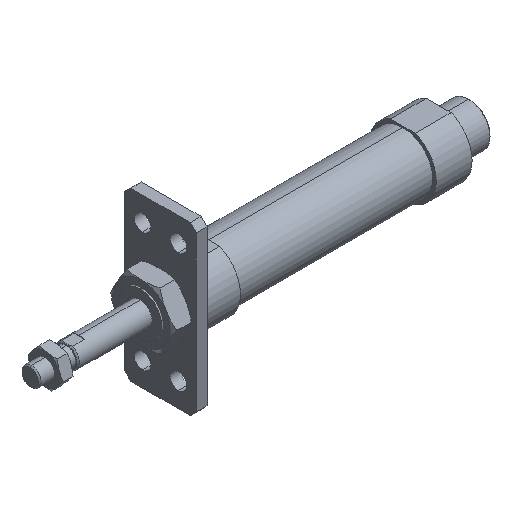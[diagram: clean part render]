
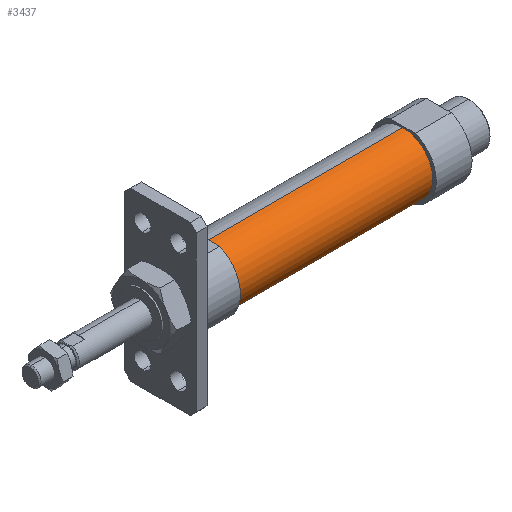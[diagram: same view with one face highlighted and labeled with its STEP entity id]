
A CAD part, isometric view. The second image highlights one B-rep face of the part: STEP entity #3437.
In plain terms, the highlighted cylindrical face has radius 12.5 mm (diameter 25 mm), a partial arc.
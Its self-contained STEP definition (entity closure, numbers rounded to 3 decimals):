
#49 = CARTESIAN_POINT ( 'NONE',  ( 156., 0., -12.5 ) ) ;
#117 = VERTEX_POINT ( 'NONE', #1104 ) ;
#118 = DIRECTION ( 'NONE',  ( 0., 0., 1. ) ) ;
#160 = CARTESIAN_POINT ( 'NONE',  ( -6.469, 0., 12.5 ) ) ;
#187 = CARTESIAN_POINT ( 'NONE',  ( 74., 0., -12.5 ) ) ;
#224 = EDGE_CURVE ( 'NONE', #1599, #577, #2796, .T. ) ;
#312 = ORIENTED_EDGE ( 'NONE', *, *, #2873, .F. ) ;
#508 = EDGE_CURVE ( 'NONE', #577, #117, #3189, .T. ) ;
#577 = VERTEX_POINT ( 'NONE', #1285 ) ;
#701 = DIRECTION ( 'NONE',  ( -1., 0., 0. ) ) ;
#958 = EDGE_CURVE ( 'NONE', #1590, #117, #1732, .T. ) ;
#1009 = CARTESIAN_POINT ( 'NONE',  ( -6.469, 0., 0. ) ) ;
#1035 = ORIENTED_EDGE ( 'NONE', *, *, #958, .F. ) ;
#1104 = CARTESIAN_POINT ( 'NONE',  ( 74., 0., 12.5 ) ) ;
#1115 = DIRECTION ( 'NONE',  ( -1., 0., 0. ) ) ;
#1176 = CARTESIAN_POINT ( 'NONE',  ( -6.469, 0., -12.5 ) ) ;
#1278 = DIRECTION ( 'NONE',  ( 0., 0., 1. ) ) ;
#1285 = CARTESIAN_POINT ( 'NONE',  ( 156., 0., 12.5 ) ) ;
#1387 = ORIENTED_EDGE ( 'NONE', *, *, #224, .T. ) ;
#1560 = EDGE_LOOP ( 'NONE', ( #312, #1387, #3101, #1035 ) ) ;
#1590 = VERTEX_POINT ( 'NONE', #187 ) ;
#1599 = VERTEX_POINT ( 'NONE', #49 ) ;
#1672 = DIRECTION ( 'NONE',  ( 0., 0., 1. ) ) ;
#1732 = CIRCLE ( 'NONE', #1868, 12.5 ) ;
#1794 = DIRECTION ( 'NONE',  ( -1., 0., 0. ) ) ;
#1826 = DIRECTION ( 'NONE',  ( -1., 0., 0. ) ) ;
#1868 = AXIS2_PLACEMENT_3D ( 'NONE', #2801, #1794, #1672 ) ;
#2096 = AXIS2_PLACEMENT_3D ( 'NONE', #2743, #2996, #1278 ) ;
#2321 = VECTOR ( 'NONE', #1115, 1000. ) ;
#2700 = AXIS2_PLACEMENT_3D ( 'NONE', #1009, #701, #118 ) ;
#2728 = CYLINDRICAL_SURFACE ( 'NONE', #2700, 12.5 ) ;
#2743 = CARTESIAN_POINT ( 'NONE',  ( 156., 0., 0. ) ) ;
#2796 = CIRCLE ( 'NONE', #2096, 12.5 ) ;
#2801 = CARTESIAN_POINT ( 'NONE',  ( 74., 0., 0. ) ) ;
#2873 = EDGE_CURVE ( 'NONE', #1599, #1590, #3024, .T. ) ;
#2918 = FACE_OUTER_BOUND ( 'NONE', #1560, .T. ) ;
#2996 = DIRECTION ( 'NONE',  ( -1., 0., 0. ) ) ;
#3024 = LINE ( 'NONE', #1176, #2321 ) ;
#3101 = ORIENTED_EDGE ( 'NONE', *, *, #508, .T. ) ;
#3189 = LINE ( 'NONE', #160, #3230 ) ;
#3230 = VECTOR ( 'NONE', #1826, 1000. ) ;
#3437 = ADVANCED_FACE ( 'NONE', ( #2918 ), #2728, .T. ) ;
